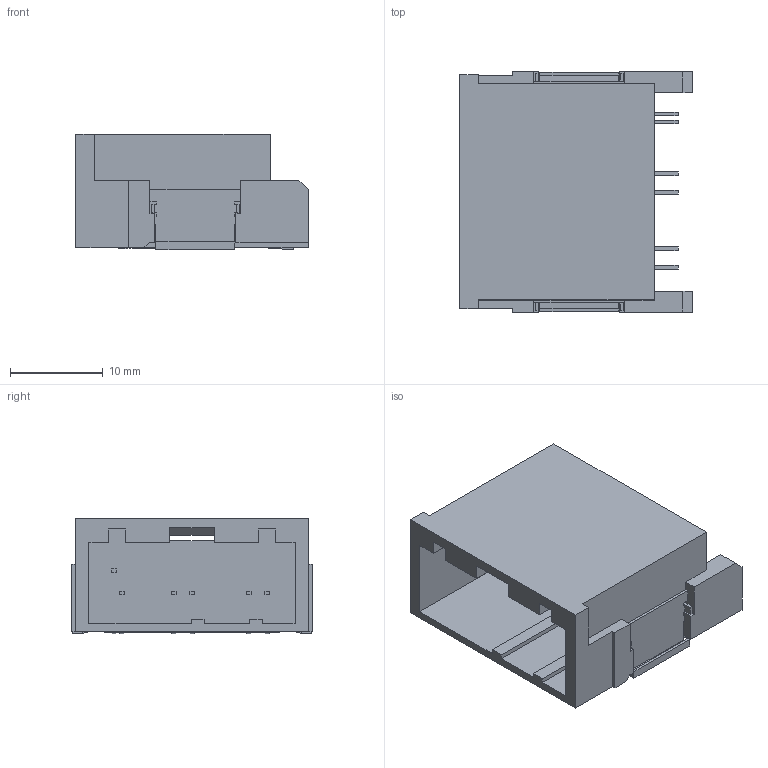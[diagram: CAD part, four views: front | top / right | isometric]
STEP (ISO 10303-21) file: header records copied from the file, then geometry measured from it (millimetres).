
FILE_DESCRIPTION(('CATIA V5 STEP','CAx-IF Rec.Pracs.--- Model Styling and Organization---1.5--- 2016-08-15','CAx-IF Rec.Pracs.---Supplemental Geometry---1.0---2011-11-01','CAx-IF Rec.Pracs.--- Composite Materials ---1.1---2010-07-15'),'2;1');
FILE_NAME('\\fss02.ad.sws.co.jp\fs100070\事務・購入\特命業務\特-35ｰ部品総合カタログメンテナンス\26年度\WEBカタログ用3D\260612_webカタログ新規登録用簡易3D\モデル保存場所\HFD-U2シリーズ\6910-9030.stp','2026-06-25T09:12:14+00:00',('none'),('none'),'CATIA Version 5-6 Release 2021 SP5 HF44','CATIA V5 STEP AP214 v2','none');
FILE_SCHEMA(('AUTOMOTIVE_DESIGN { 1 0 10303 214 1 1 1 1 }'));
Length unit declared in the file: millimetre
Products named in the file (1): 90980_12G76
Bounding box: 25.1 x 25.95 x 12.51 mm (x, y, z)
Volume: 3307.9 mm3; surface area: 3697.5 mm2
Topology: 1 solids, 1 shells, 227 faces, 646 edges, 430 vertices
Faces by surface type: plane 227
Entity records: 6908 total; most frequent: ORIENTED_EDGE 1292, CARTESIAN_POINT 1237, DIRECTION 963, EDGE_CURVE 646, VECTOR 645, LINE 645, VERTEX_POINT 430, EDGE_LOOP 238
